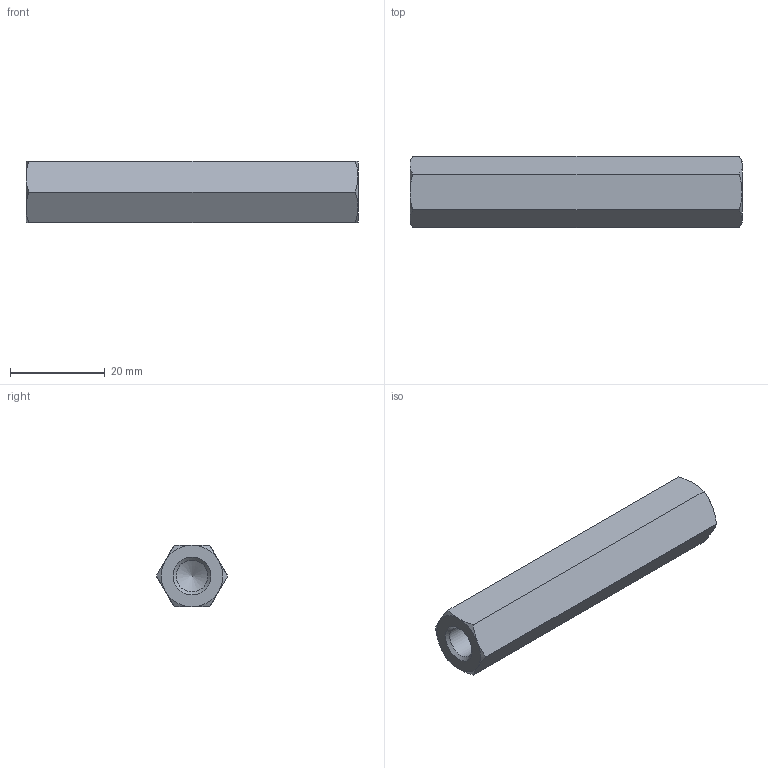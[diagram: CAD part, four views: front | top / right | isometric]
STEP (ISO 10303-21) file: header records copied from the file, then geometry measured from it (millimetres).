
FILE_DESCRIPTION( ( 'STEP AP203' ), '1' );
FILE_NAME( 'C:/Temp/Ganter_Step_05_03_2020/data/3_2/gn6220/gn6220_ni/Stainless Steel-Spacer GN 6220-NI-M8-70-A.stp', '2020-03-13T05:43:06', ( 'License CC BY-ND 4.0' ), ( 'CADENAS' ), ' ', 'PARTsolutions', ' ' );
FILE_SCHEMA( ( 'CONFIG_CONTROL_DESIGN' ) );
Length unit declared in the file: millimetre
Products named in the file (1): _Stainless Steel-Spacer GN 6220-NI-M8-70-A
Bounding box: 70 x 15.01 x 13 mm (x, y, z)
Volume: 8782 mm3; surface area: 4271.2 mm2
Topology: 1 solids, 1 shells, 26 faces, 57 edges, 33 vertices
Faces by surface type: cone 16, plane 8, cylinder 2
Full cylindrical faces by diameter (mm): 6.647 x2
Entity records: 782 total; most frequent: CARTESIAN_POINT 243, DIRECTION 96, ORIENTED_EDGE 96, EDGE_CURVE 48, AXIS2_PLACEMENT_3D 45, EDGE_LOOP 32, VERTEX_POINT 32, FACE_OUTER_BOUND 28
